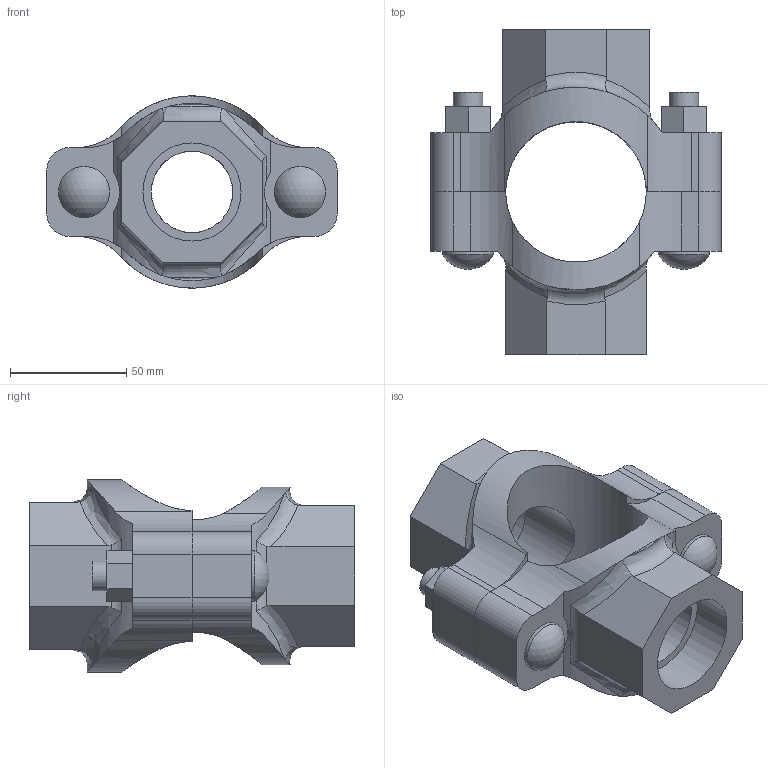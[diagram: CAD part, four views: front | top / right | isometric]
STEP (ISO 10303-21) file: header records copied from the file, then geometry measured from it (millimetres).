
FILE_DESCRIPTION(/* description */ ('VIC MECH-T BRANCH OUTLET CROSS STYLE 920N (THD)','CAx-IF Rec.Pracs.---Representation and Presentation of Product Manufacturing Information (PMI)---4.0---2014-10-13'),/* implementation_level */ '2;1');
FILE_NAME(/* name */ 'C:\Users\Vjadhav\AppData\Roaming\Autodesk\ApplicationPlugins\Back Up\Victaulic_IPS_Mechanical-Cross Outlet_Style 920N (FPT)\Victaulic_IPS_Mechanical-Cross Outlet_02.0x01.5x01.25 (50x40x32).stp',/* time_stamp */ '2020-08-06T18:56:14+05:00',/* author */ ('Vjadhav'),/* organization */ ('Victaulic'),/* preprocessor_version */ 'ST-DEVELOPER v17.2',/* originating_system */ 'Autodesk Inventor 2019',/* authorisation */ '');
FILE_SCHEMA (('AP242_MANAGED_MODEL_BASED_3D_ENGINEERING_MIM_LF { 1 0 10303 442 1 1 4 }'));
Length unit declared in the file: inch
Products named in the file (3): 920NT-02.0x01.5x01.25; 920NT-02.0x01.5; 920NT-02.0x01.25
Assembly tree (2 placements, depth 2):
  920NT-02.0x01.5x01.25
    920NT-02.0x01.5
    920NT-02.0x01.25
Bounding box: 124.71 x 139.7 x 82.51 mm (x, y, z)
Volume: 345602.8 mm3; surface area: 78305.2 mm2
Topology: 2 solids, 2 shells, 137 faces, 368 edges, 248 vertices
Faces by surface type: plane 68, cylinder 55, bspline 8, torus 4, sphere 2
Full cylindrical faces by diameter (mm): 12.7 x4, 21.982 x2, 34.925 x1, 41.275 x1, 42.164 x1, 48.26 x1
Entity records: 5344 total; most frequent: CARTESIAN_POINT 1693, ORIENTED_EDGE 736, DIRECTION 668, EDGE_CURVE 368, VERTEX_POINT 248, AXIS2_PLACEMENT_3D 240, LINE 188, VECTOR 188
